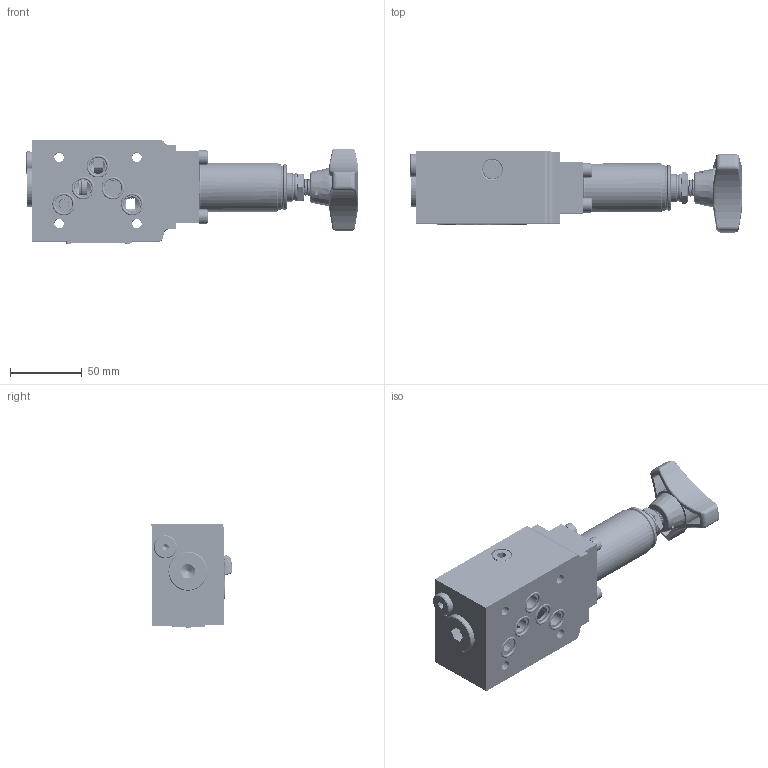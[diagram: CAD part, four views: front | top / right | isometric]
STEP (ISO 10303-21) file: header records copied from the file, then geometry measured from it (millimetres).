
FILE_DESCRIPTION (( 'STEP AP203' ), '1' );
FILE_NAME ('ZDR10DP-4XJ.STEP', '2025-03-19T09:01:43', ( '' ), ( '' ), 'SwSTEP 2.0', 'SolidWorks 2024', '' );
FILE_SCHEMA (( 'CONFIG_CONTROL_DESIGN' ));
Length unit declared in the file: millimetre
Products named in the file (29): 10x2; 162623; 166997; G1-8; 铆钉; 166977; 162620; 162622; 139608; 007008; 标牌; 塑胶手柄; roundwire snap rings for shaft gb_GB_CONNECTING_PIECE_RINGS_RSRS 5; 10ZUHEDIANQUAN; 167102; ZM8X1; 167061; 136782; ZDR10DP-4XJ; 3x20; 3455; 138855; 139408; 120000; 12x2; 24x2; 20x2; 20x2.65; M6x25
Assembly tree (36 placements, depth 2):
  ZDR10DP-4XJ
    167102
    166997
    20x2.65
    139408
    139608
    138855
    162620
    24x2
    M6x25  x4
    007008
    136782
    20x2
    167061
    162623
    162622
    roundwire snap rings for shaft gb_GB_CONNECTING_PIECE_RINGS_RSRS 5
    10x2
    塑胶手柄
    3x20
    120000
    ZM8X1
    标牌
    铆钉  x2
    12x2  x5
    166977
    10ZUHEDIANQUAN
    G1-8
    3455
Bounding box: 230.59 x 56.27 x 72.49 mm (x, y, z)
Volume: 404384.4 mm3; surface area: 128156.7 mm2
Topology: 38 solids, 41 shells, 2439 faces, 6274 edges, 3894 vertices
Faces by surface type: cylinder 1299, plane 437, cone 320, torus 263, bspline 118, sphere 2
Entity records: 152614 total; most frequent: CARTESIAN_POINT 103881, ORIENTED_EDGE 10136, DIRECTION 8970, EDGE_CURVE 5072, AXIS2_PLACEMENT_3D 3528, VERTEX_POINT 3143, EDGE_LOOP 2130, ADVANCED_FACE 2018
